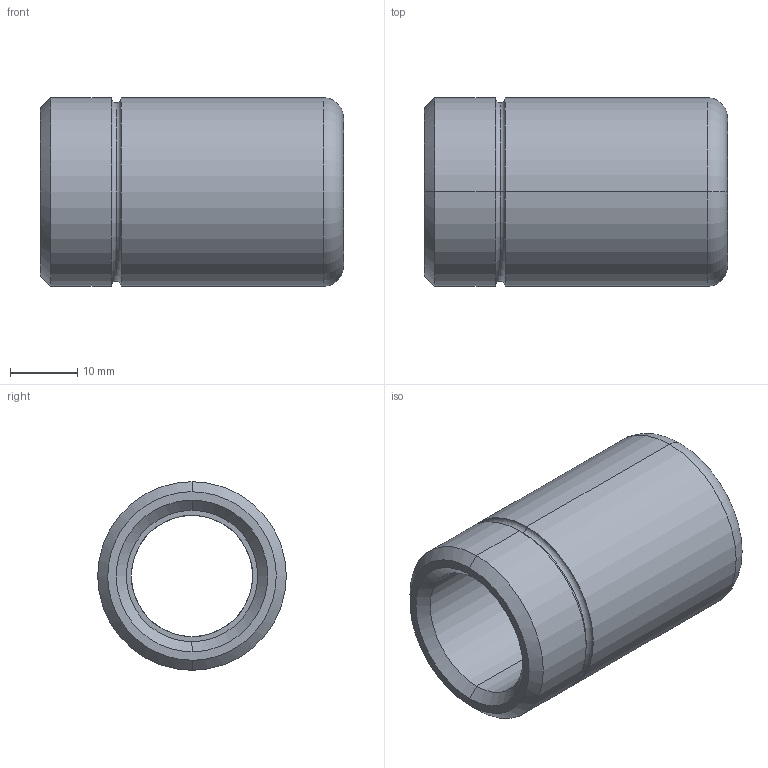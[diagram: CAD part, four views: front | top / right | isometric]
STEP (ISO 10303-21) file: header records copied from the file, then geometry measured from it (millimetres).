
FILE_DESCRIPTION(('CATIA V5 STEP Exchange'),'2;1');
FILE_NAME('C:\Users\Utente\Desktop\IO LAVORO\3D X SITO CF\X SITO\3D files 347\347-18 x 45.stp','2021-01-01T10:04:30+00:00',('none'),('none'),'CATIA Version 5 Release 20 GA (IN-10)','CATIA V5 STEP AP203','none');
FILE_SCHEMA(('CONFIG_CONTROL_DESIGN'));
Length unit declared in the file: millimetre
Products named in the file (1): 347-18 x 45
Bounding box: 45 x 28 x 28 mm (x, y, z)
Volume: 14918.9 mm3; surface area: 7222.2 mm2
Topology: 1 solids, 1 shells, 29 faces, 86 edges, 60 vertices
Faces by surface type: torus 12, cylinder 10, cone 4, plane 3
Entity records: 1160 total; most frequent: CARTESIAN_POINT 350, ORIENTED_EDGE 172, DIRECTION 132, AXIS2_PLACEMENT_3D 90, EDGE_CURVE 86, CIRCLE 60, VERTEX_POINT 60, EDGE_LOOP 32
